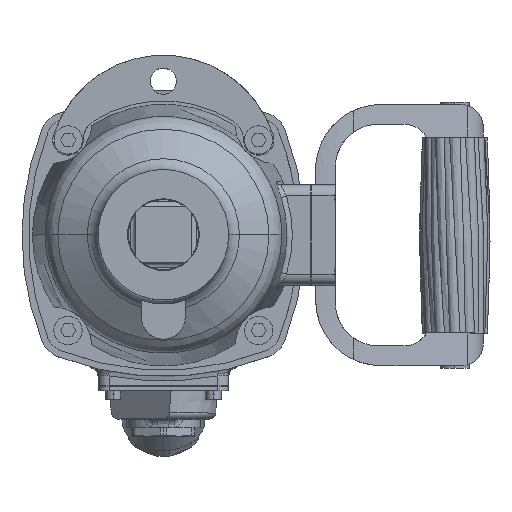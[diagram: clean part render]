
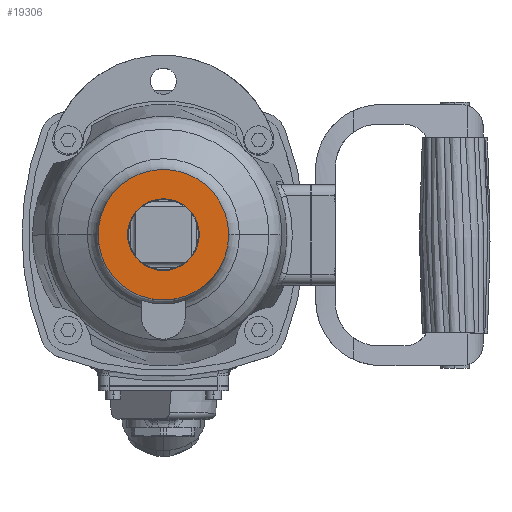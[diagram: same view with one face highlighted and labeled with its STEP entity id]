
A CAD part, top view. The second image highlights one B-rep face of the part: STEP entity #19306.
In plain terms, the highlighted planar face has unit normal (0, 0, 1).
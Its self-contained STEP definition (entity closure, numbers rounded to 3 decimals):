
#4141 = CARTESIAN_POINT ( 'NONE',  ( -16.5, 0., 0. ) ) ;
#4146 = DIRECTION ( 'NONE',  ( 1., 0., 0. ) ) ;
#4147 = DIRECTION ( 'NONE',  ( 0., 0., 1. ) ) ;
#4148 = CARTESIAN_POINT ( 'NONE',  ( 0., 0., 0. ) ) ;
#4149 = AXIS2_PLACEMENT_3D ( 'NONE', #4148, #4147, #4146 ) ;
#4150 = CIRCLE ( 'NONE', #4149, 16.5 ) ;
#4151 = CARTESIAN_POINT ( 'NONE',  ( 16.5, 0., 0. ) ) ;
#18639 = VERTEX_POINT ( 'NONE', #94266 ) ;
#18715 = VERTEX_POINT ( 'NONE', #94511 ) ;
#18721 = EDGE_CURVE ( 'NONE', #18639, #18715, #94504, .T. ) ;
#19306 = ADVANCED_FACE ( 'NONE', ( #96003, #96002 ), #95995, .F. ) ;
#19307 = EDGE_LOOP ( 'NONE', ( #19308, #19309 ) ) ;
#19308 = ORIENTED_EDGE ( 'NONE', *, *, #18721, .T. ) ;
#19309 = ORIENTED_EDGE ( 'NONE', *, *, #19310, .T. ) ;
#19310 = EDGE_CURVE ( 'NONE', #18715, #18639, #96042, .T. ) ;
#19311 = EDGE_LOOP ( 'NONE', ( #19312, #19314 ) ) ;
#19312 = ORIENTED_EDGE ( 'NONE', *, *, #19313, .F. ) ;
#19313 = EDGE_CURVE ( 'NONE', #25254, #25259, #96038, .T. ) ;
#19314 = ORIENTED_EDGE ( 'NONE', *, *, #25256, .F. ) ;
#25254 = VERTEX_POINT ( 'NONE', #4151 ) ;
#25256 = EDGE_CURVE ( 'NONE', #25259, #25254, #4150, .T. ) ;
#25259 = VERTEX_POINT ( 'NONE', #4141 ) ;
#94266 = CARTESIAN_POINT ( 'NONE',  ( 30., 0., 0. ) ) ;
#94500 = DIRECTION ( 'NONE',  ( 1., 0., 0. ) ) ;
#94501 = DIRECTION ( 'NONE',  ( 0., 0., 1. ) ) ;
#94502 = CARTESIAN_POINT ( 'NONE',  ( 0., 0., 0. ) ) ;
#94503 = AXIS2_PLACEMENT_3D ( 'NONE', #94502, #94501, #94500 ) ;
#94504 = CIRCLE ( 'NONE', #94503, 30. ) ;
#94511 = CARTESIAN_POINT ( 'NONE',  ( -30., 0., 0. ) ) ;
#95991 = DIRECTION ( 'NONE',  ( -1., 0., 0. ) ) ;
#95992 = DIRECTION ( 'NONE',  ( 0., 0., -1. ) ) ;
#95993 = CARTESIAN_POINT ( 'NONE',  ( 0., 0., 0. ) ) ;
#95994 = AXIS2_PLACEMENT_3D ( 'NONE', #95993, #95992, #95991 ) ;
#95995 = PLANE ( 'NONE',  #95994 ) ;
#95996 = CARTESIAN_POINT ( 'NONE',  ( 0., 0., 0. ) ) ;
#96002 = FACE_BOUND ( 'NONE', #19311, .T. ) ;
#96003 = FACE_OUTER_BOUND ( 'NONE', #19307, .T. ) ;
#96034 = DIRECTION ( 'NONE',  ( 1., 0., 0. ) ) ;
#96035 = DIRECTION ( 'NONE',  ( 0., 0., 1. ) ) ;
#96036 = CARTESIAN_POINT ( 'NONE',  ( 0., 0., 0. ) ) ;
#96037 = AXIS2_PLACEMENT_3D ( 'NONE', #96036, #96035, #96034 ) ;
#96038 = CIRCLE ( 'NONE', #96037, 16.5 ) ;
#96039 = DIRECTION ( 'NONE',  ( 1., 0., 0. ) ) ;
#96040 = DIRECTION ( 'NONE',  ( 0., 0., 1. ) ) ;
#96041 = AXIS2_PLACEMENT_3D ( 'NONE', #95996, #96040, #96039 ) ;
#96042 = CIRCLE ( 'NONE', #96041, 30. ) ;
